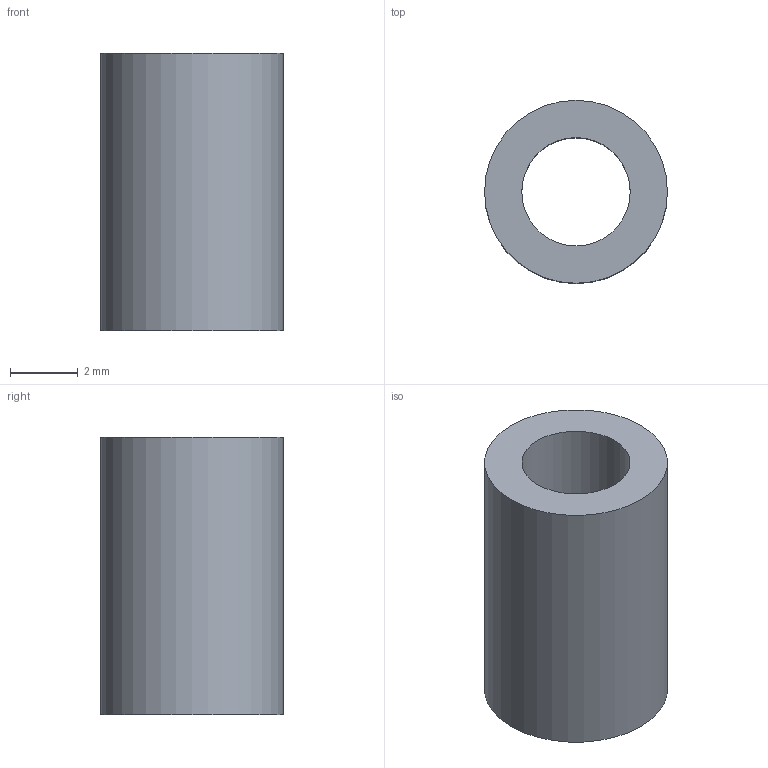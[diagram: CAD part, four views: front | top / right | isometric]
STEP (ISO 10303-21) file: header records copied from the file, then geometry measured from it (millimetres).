
FILE_DESCRIPTION(('Open CASCADE Model'),'2;1');
FILE_NAME('Open CASCADE Shape Model','2026-10-05T13:03:07',('Author'),( 'Open CASCADE'),'Open CASCADE STEP processor 7.9','Open CASCADE 7.9' ,'Unknown');
FILE_SCHEMA(('AUTOMOTIVE_DESIGN { 1 0 10303 214 1 1 1 1 }'));
Length unit declared in the file: millimetre
Products named in the file (1): Open CASCADE STEP translator 7.9 18
Bounding box: 5.4 x 5.4 x 8.2 mm (x, y, z)
Volume: 121.8 mm3; surface area: 251.3 mm2
Topology: 1 solids, 1 shells, 4 faces, 6 edges, 4 vertices
Faces by surface type: cylinder 2, plane 2
Full cylindrical faces by diameter (mm): 3.2 x1, 5.4 x1
Entity records: 186 total; most frequent: DIRECTION 32, CARTESIAN_POINT 27, ORIENTED_EDGE 12, PCURVE 12, DEFINITIONAL_REPRESENTATION 12, LINE 10, VECTOR 10, AXIS2_PLACEMENT_3D 9
